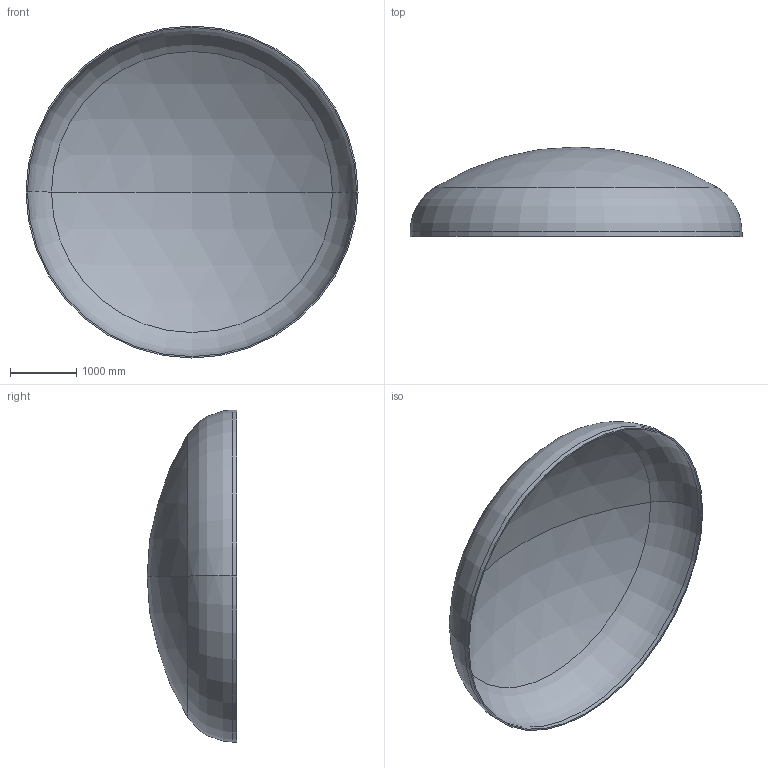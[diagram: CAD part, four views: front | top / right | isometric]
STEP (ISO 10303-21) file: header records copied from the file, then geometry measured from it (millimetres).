
FILE_DESCRIPTION (( 'STEP AP203' ), '1' );
FILE_NAME ('DIN 28013 Korbbogenform_-_Boden DIN 28013 - 5000 x 70 - I - s=21.step', '2016-07-02T00:12:28', ( '' ), ( '' ), 'SwSTEP 2.0', 'SolidWorks 2013', '' );
FILE_SCHEMA (( 'CONFIG_CONTROL_DESIGN' ));
Length unit declared in the file: millimetre
Products named in the file (1): DIN 28013 Korbbogenform_-_Boden DIN 28013 - 5000 x 70 - I - s=21
Bounding box: 5000 x 1350.16 x 5000 mm (x, y, z)
Volume: 590935490.5 mm3; surface area: 56608953.5 mm2
Topology: 1 solids, 1 shells, 13 faces, 24 edges, 14 vertices
Faces by surface type: torus 4, cylinder 4, sphere 4, plane 1
Entity records: 407 total; most frequent: DIRECTION 72, CARTESIAN_POINT 52, ORIENTED_EDGE 48, AXIS2_PLACEMENT_3D 34, EDGE_CURVE 24, CIRCLE 20, VERTEX_POINT 14, EDGE_LOOP 14
